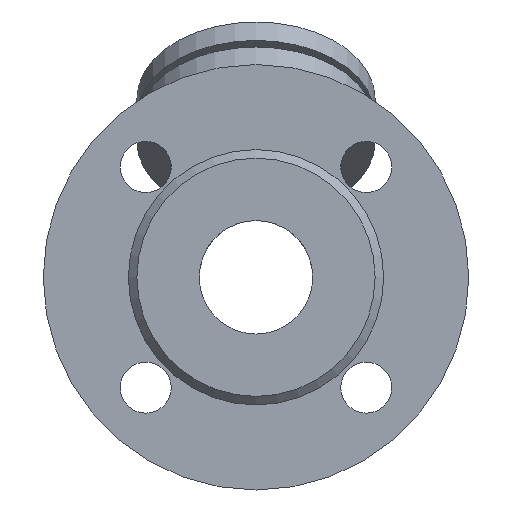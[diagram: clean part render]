
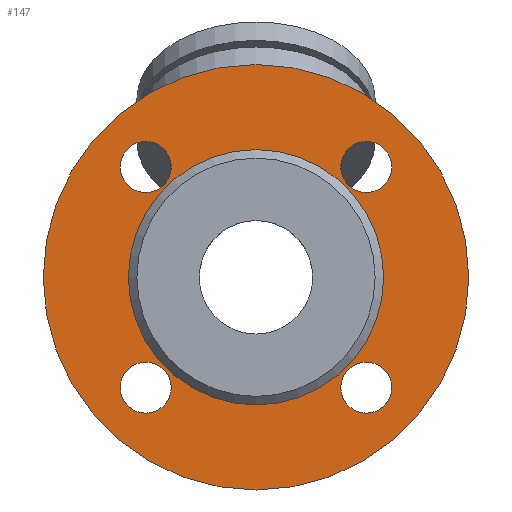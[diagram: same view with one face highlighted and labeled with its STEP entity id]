
A CAD part, front view. The second image highlights one B-rep face of the part: STEP entity #147.
In plain terms, the highlighted planar face has unit normal (0, -1, 0).
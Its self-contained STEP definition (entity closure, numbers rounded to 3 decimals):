
#147=ADVANCED_FACE('',(#473,#475,#477,#479,#481,#483),#485,.T.);
#473=FACE_BOUND('',#474,.T.);
#474=EDGE_LOOP('',(#768));
#475=FACE_BOUND('',#476,.T.);
#476=EDGE_LOOP('',(#769));
#477=FACE_BOUND('',#478,.T.);
#478=EDGE_LOOP('',(#770));
#479=FACE_BOUND('',#480,.T.);
#480=EDGE_LOOP('',(#771));
#481=FACE_BOUND('',#482,.T.);
#482=EDGE_LOOP('',(#772));
#483=FACE_BOUND('',#484,.T.);
#484=EDGE_LOOP('',(#773));
#485=PLANE('',#486);
#486=AXIS2_PLACEMENT_3D('',#487,#488,#489);
#487=CARTESIAN_POINT('',(0.,-87.,0.));
#488=DIRECTION('',(0.,-1.,0.));
#489=DIRECTION('',(0.,0.,1.));
#768=ORIENTED_EDGE('',*,*,#870,.F.);
#769=ORIENTED_EDGE('',*,*,#871,.T.);
#770=ORIENTED_EDGE('',*,*,#872,.T.);
#771=ORIENTED_EDGE('',*,*,#873,.T.);
#772=ORIENTED_EDGE('',*,*,#864,.T.);
#773=ORIENTED_EDGE('',*,*,#874,.T.);
#864=EDGE_CURVE('',#942,#942,#943,.T.);
#870=EDGE_CURVE('',#954,#954,#955,.T.);
#871=EDGE_CURVE('',#956,#956,#957,.F.);
#872=EDGE_CURVE('',#958,#958,#959,.F.);
#873=EDGE_CURVE('',#960,#960,#961,.F.);
#874=EDGE_CURVE('',#962,#962,#963,.F.);
#942=VERTEX_POINT('',#1259);
#943=CIRCLE('',#1260,45.);
#954=VERTEX_POINT('',#1289);
#955=CIRCLE('',#1290,75.);
#956=VERTEX_POINT('',#1294);
#957=CIRCLE('',#1295,9.);
#958=VERTEX_POINT('',#1299);
#959=CIRCLE('',#1300,9.);
#960=VERTEX_POINT('',#1304);
#961=CIRCLE('',#1305,9.);
#962=VERTEX_POINT('',#1309);
#963=CIRCLE('',#1310,9.);
#1259=CARTESIAN_POINT('',(0.,-87.,45.));
#1260=AXIS2_PLACEMENT_3D('',#1261,#1262,#1263);
#1261=CARTESIAN_POINT('',(0.,-87.,0.));
#1262=DIRECTION('',(0.,1.,0.));
#1263=DIRECTION('',(0.,0.,1.));
#1289=CARTESIAN_POINT('',(0.,-87.,75.));
#1290=AXIS2_PLACEMENT_3D('',#1291,#1292,#1293);
#1291=CARTESIAN_POINT('',(0.,-87.,0.));
#1292=DIRECTION('',(0.,1.,0.));
#1293=DIRECTION('',(0.,0.,1.));
#1294=CARTESIAN_POINT('',(38.891,-87.,29.891));
#1295=AXIS2_PLACEMENT_3D('',#1296,#1297,#1298);
#1296=CARTESIAN_POINT('',(38.891,-87.,38.891));
#1297=DIRECTION('',(0.,-1.,0.));
#1298=DIRECTION('',(0.,0.,-1.));
#1299=CARTESIAN_POINT('',(29.891,-87.,-38.891));
#1300=AXIS2_PLACEMENT_3D('',#1301,#1302,#1303);
#1301=CARTESIAN_POINT('',(38.891,-87.,-38.891));
#1302=DIRECTION('',(0.,-1.,0.));
#1303=DIRECTION('',(-1.,0.,0.));
#1304=CARTESIAN_POINT('',(-38.891,-87.,-29.891));
#1305=AXIS2_PLACEMENT_3D('',#1306,#1307,#1308);
#1306=CARTESIAN_POINT('',(-38.891,-87.,-38.891));
#1307=DIRECTION('',(0.,-1.,0.));
#1308=DIRECTION('',(0.,0.,1.));
#1309=CARTESIAN_POINT('',(-29.891,-87.,38.891));
#1310=AXIS2_PLACEMENT_3D('',#1311,#1312,#1313);
#1311=CARTESIAN_POINT('',(-38.891,-87.,38.891));
#1312=DIRECTION('',(0.,-1.,0.));
#1313=DIRECTION('',(1.,0.,0.));
